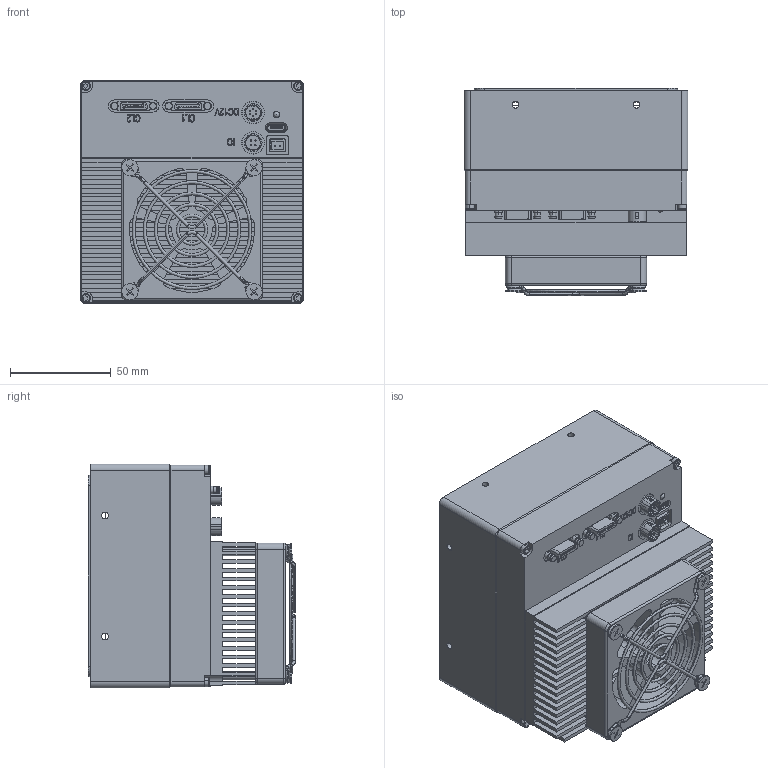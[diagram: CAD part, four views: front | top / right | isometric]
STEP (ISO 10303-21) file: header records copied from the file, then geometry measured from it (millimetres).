
FILE_DESCRIPTION (( 'STEP AP203' ), '1' );
FILE_NAME ('TTS26M-total-asm-20220318.STEP', '2022-12-12T07:02:24', ( '微软用户' ), ( '微软中国' ), 'SwSTEP 2.0', 'SolidWorks 2017', '' );
FILE_SCHEMA (( 'CONFIG_CONTROL_DESIGN' ));
Length unit declared in the file: millimetre
Products named in the file (1): TTS26M-total-asm-20220318
Bounding box: 111 x 102.67 x 111 mm (x, y, z)
Surface area: 137928.4 mm2 (no closed solid volume)
Topology: 0 solids, 83 shells, 858 faces, 3292 edges, 2465 vertices
Faces by surface type: plane 426, cylinder 295, bspline 65, cone 40, torus 24, sphere 8
Entity records: 38024 total; most frequent: CARTESIAN_POINT 10999, DIRECTION 5559, ORIENTED_EDGE 4936, EDGE_CURVE 3267, VERTEX_POINT 2456, VECTOR 2091, LINE 2091, AXIS2_PLACEMENT_3D 1734
